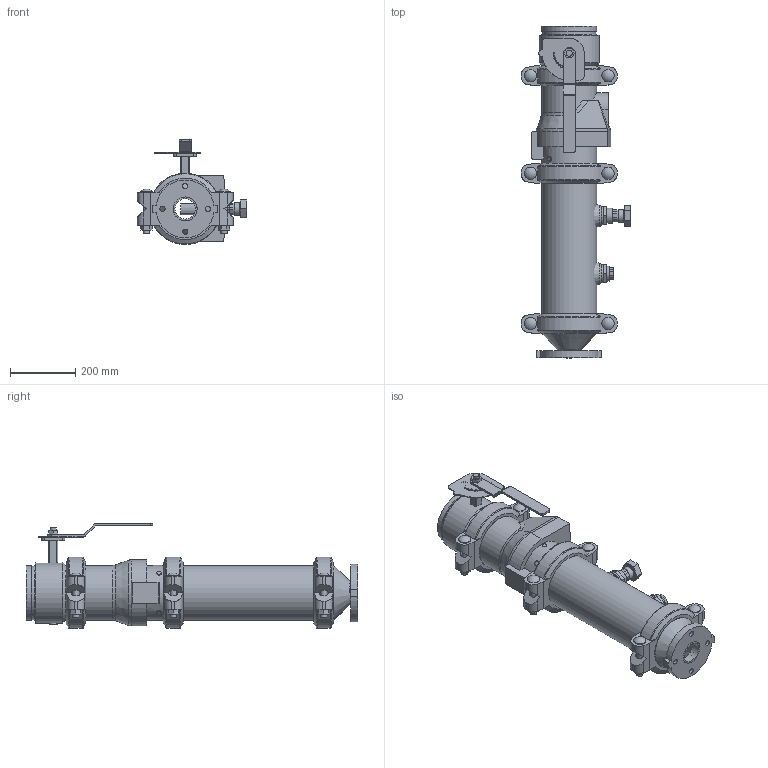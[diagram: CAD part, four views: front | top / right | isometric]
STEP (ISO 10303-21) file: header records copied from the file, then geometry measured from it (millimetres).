
FILE_DESCRIPTION(/* description */ ('VIC DVI PUMP DROP VERT S/380 (OGSxFLG) (S/924-1.25)','CAx-IF Rec.Pracs.---Representation and Presentation of Product Manufacturing Information (PMI)---4.0---2014-10-13'),/* implementation_level */ '2;1');
FILE_NAME(/* name */ 'C:\Users\Public\Documents\Victaulic.Temp\A765\Victaulic_IPS_Vertical DVI_CL 150_Series 380 (OGSxFLG)_924 (1.25)_06.0x02.5 (150x65).stp',/* time_stamp */ '2022-07-25T11:12:15+02:00',/* author */ ('Vjadhav'),/* organization */ ('Victaulic'),/* preprocessor_version */ 'ST-DEVELOPER v18',/* originating_system */ 'Autodesk Inventor 2020',/* authorisation */ '');
FILE_SCHEMA (('AP242_MANAGED_MODEL_BASED_3D_ENGINEERING_MIM_LF { 1 0 10303 442 1 1 4 }'));
Length unit declared in the file: inch
Products named in the file (9): 380_924 (1.25)-06.0x02.5; 741-02.5; 050-06.0x02.5; Pipe-06.0; 177N-06.0; 761-06.0; 779-06.0; 923-04.0x0.75; 924-04.0x01.25
Assembly tree (10 placements, depth 2):
  380_924 (1.25)-06.0x02.5
    741-02.5
    050-06.0x02.5
    177N-06.0  x3
    Pipe-06.0
    761-06.0
    779-06.0
    923-04.0x0.75
    924-04.0x01.25
Bounding box: 335.83 x 1019.17 x 322.07 mm (x, y, z)
Volume: 10729877.3 mm3; surface area: 1803311.9 mm2
Topology: 10 solids, 12 shells, 601 faces, 1561 edges, 1045 vertices
Faces by surface type: plane 356, cylinder 199, cone 20, torus 18, sphere 6, bspline 2
Full cylindrical faces by diameter (mm): 4.826 x10, 8.636 x4, 13.716 x4, 15.875 x4, 19.05 x8, 21.336 x1, 22.86 x1, 26.67 x2, 37.694 x6, 38.608 x1, 42.164 x1, 45.974 x4, 48.514 x1, 55.118 x1, 55.626 x2, 62.713 x1, 69.088 x1, 73.025 x3, 154.051 x4, 155.575 x3, 163.957 x7, 168.275 x19, 185.42 x1
Entity records: 14314 total; most frequent: CARTESIAN_POINT 2832, DIRECTION 2364, ORIENTED_EDGE 2150, EDGE_CURVE 1075, AXIS2_PLACEMENT_3D 895, VERTEX_POINT 725, LINE 574, VECTOR 574
